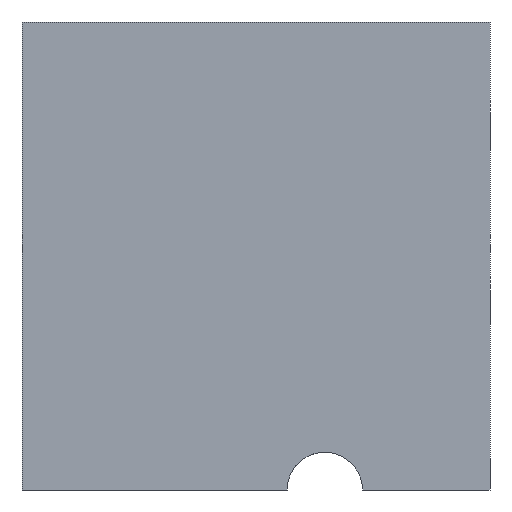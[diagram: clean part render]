
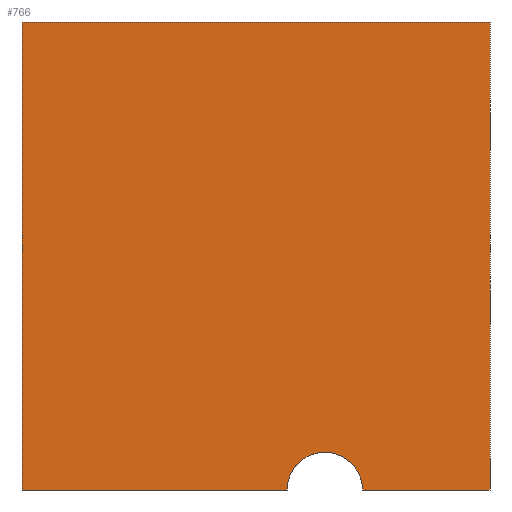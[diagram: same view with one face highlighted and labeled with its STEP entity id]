
A CAD part, left-side view. The second image highlights one B-rep face of the part: STEP entity #766.
In plain terms, the highlighted planar face has unit normal (-1, 0, 0).
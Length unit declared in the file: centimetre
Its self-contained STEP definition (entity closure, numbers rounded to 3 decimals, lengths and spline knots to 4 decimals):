
#11 = ORIENTED_EDGE ( 'NONE', *, *, #156, .T. ) ;
#73 = EDGE_LOOP ( 'NONE', ( #333, #938, #951, #1318, #725, #1134, #11 ) ) ;
#156 = EDGE_CURVE ( 'NONE', #463, #883, #448, .T. ) ;
#172 = DIRECTION ( 'NONE',  ( -1., 0., 0. ) ) ;
#176 = CARTESIAN_POINT ( 'NONE',  ( 0., 353.0151, 80.7289 ) ) ;
#177 = CARTESIAN_POINT ( 'NONE',  ( 0., 353.0151, 0. ) ) ;
#186 = EDGE_CURVE ( 'NONE', #463, #1132, #993, .T. ) ;
#282 = DIRECTION ( 'NONE',  ( -1., 0., 0. ) ) ;
#318 = VERTEX_POINT ( 'NONE', #544 ) ;
#333 = ORIENTED_EDGE ( 'NONE', *, *, #1155, .T. ) ;
#336 = DIRECTION ( 'NONE',  ( 0., 0., -1. ) ) ;
#345 = DIRECTION ( 'NONE',  ( 1., 0., 0. ) ) ;
#360 = VERTEX_POINT ( 'NONE', #854 ) ;
#368 = CARTESIAN_POINT ( 'NONE',  ( 0., 1000., 1000. ) ) ;
#393 = CARTESIAN_POINT ( 'NONE',  ( 0., 0., 1000. ) ) ;
#396 = VECTOR ( 'NONE', #995, 100. ) ;
#437 = EDGE_CURVE ( 'NONE', #1132, #360, #912, .T. ) ;
#448 = LINE ( 'NONE', #868, #970 ) ;
#457 = VECTOR ( 'NONE', #841, 100. ) ;
#463 = VERTEX_POINT ( 'NONE', #1214 ) ;
#490 = CARTESIAN_POINT ( 'NONE',  ( 0., 353.0151, 0. ) ) ;
#503 = DIRECTION ( 'NONE',  ( 0., -1., 0. ) ) ;
#506 = VERTEX_POINT ( 'NONE', #176 ) ;
#518 = VECTOR ( 'NONE', #503, 100. ) ;
#544 = CARTESIAN_POINT ( 'NONE',  ( 0., 272.2863, 0. ) ) ;
#590 = AXIS2_PLACEMENT_3D ( 'NONE', #490, #172, #900 ) ;
#620 = CARTESIAN_POINT ( 'NONE',  ( 0., 1000., 0. ) ) ;
#657 = CARTESIAN_POINT ( 'NONE',  ( 0., 1000., 1000. ) ) ;
#661 = CARTESIAN_POINT ( 'NONE',  ( 0., 1000., 0. ) ) ;
#725 = ORIENTED_EDGE ( 'NONE', *, *, #437, .F. ) ;
#761 = CIRCLE ( 'NONE', #926, 80.7289 ) ;
#766 = ADVANCED_FACE ( 'NONE', ( #1254 ), #953, .F. ) ;
#784 = CARTESIAN_POINT ( 'NONE',  ( 0., 1000., 0. ) ) ;
#789 = DIRECTION ( 'NONE',  ( 0., 0., 1. ) ) ;
#841 = DIRECTION ( 'NONE',  ( 0., -1., 0. ) ) ;
#854 = CARTESIAN_POINT ( 'NONE',  ( 0., 0., 0. ) ) ;
#868 = CARTESIAN_POINT ( 'NONE',  ( 0., 1000., 1000. ) ) ;
#883 = VERTEX_POINT ( 'NONE', #784 ) ;
#884 = DIRECTION ( 'NONE',  ( 0., 0., -1. ) ) ;
#895 = EDGE_CURVE ( 'NONE', #318, #506, #1283, .T. ) ;
#900 = DIRECTION ( 'NONE',  ( 0., 0., 1. ) ) ;
#912 = LINE ( 'NONE', #393, #396 ) ;
#926 = AXIS2_PLACEMENT_3D ( 'NONE', #177, #282, #789 ) ;
#938 = ORIENTED_EDGE ( 'NONE', *, *, #1220, .F. ) ;
#951 = ORIENTED_EDGE ( 'NONE', *, *, #895, .F. ) ;
#953 = PLANE ( 'NONE',  #1171 ) ;
#970 = VECTOR ( 'NONE', #884, 100. ) ;
#993 = LINE ( 'NONE', #368, #1145 ) ;
#994 = EDGE_CURVE ( 'NONE', #318, #360, #1135, .T. ) ;
#995 = DIRECTION ( 'NONE',  ( 0., 0., -1. ) ) ;
#1054 = VERTEX_POINT ( 'NONE', #1125 ) ;
#1091 = DIRECTION ( 'NONE',  ( 0., -1., 0. ) ) ;
#1125 = CARTESIAN_POINT ( 'NONE',  ( 0., 433.744, 0. ) ) ;
#1132 = VERTEX_POINT ( 'NONE', #1180 ) ;
#1134 = ORIENTED_EDGE ( 'NONE', *, *, #186, .F. ) ;
#1135 = LINE ( 'NONE', #620, #518 ) ;
#1145 = VECTOR ( 'NONE', #1091, 100. ) ;
#1154 = LINE ( 'NONE', #661, #457 ) ;
#1155 = EDGE_CURVE ( 'NONE', #883, #1054, #1154, .T. ) ;
#1171 = AXIS2_PLACEMENT_3D ( 'NONE', #657, #345, #336 ) ;
#1180 = CARTESIAN_POINT ( 'NONE',  ( 0., 0., 1000. ) ) ;
#1214 = CARTESIAN_POINT ( 'NONE',  ( 0., 1000., 1000. ) ) ;
#1220 = EDGE_CURVE ( 'NONE', #506, #1054, #761, .T. ) ;
#1254 = FACE_OUTER_BOUND ( 'NONE', #73, .T. ) ;
#1283 = CIRCLE ( 'NONE', #590, 80.7289 ) ;
#1318 = ORIENTED_EDGE ( 'NONE', *, *, #994, .T. ) ;
